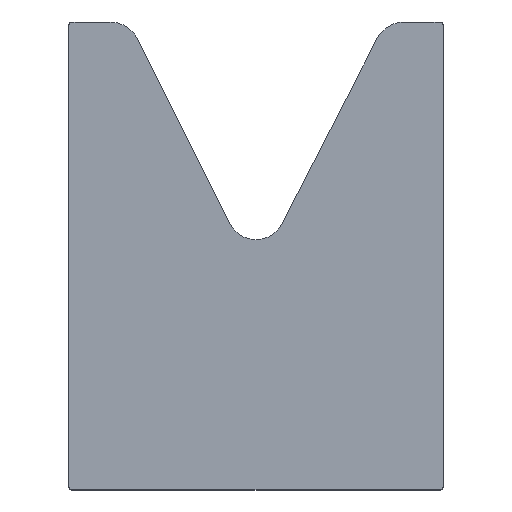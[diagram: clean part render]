
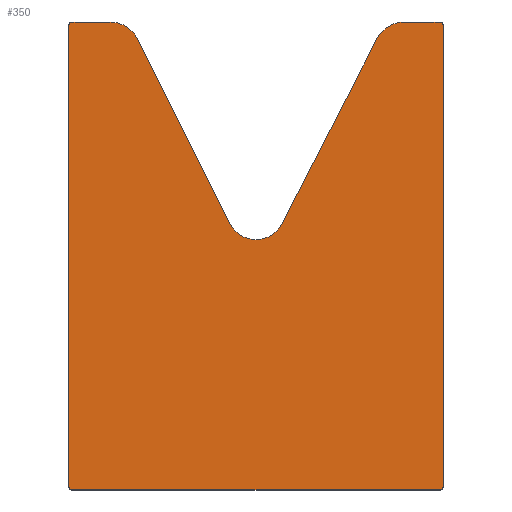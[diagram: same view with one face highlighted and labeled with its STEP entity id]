
A CAD part, top view. The second image highlights one B-rep face of the part: STEP entity #350.
In plain terms, the highlighted planar face has unit normal (0, 0, 1).
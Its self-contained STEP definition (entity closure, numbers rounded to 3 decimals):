
#3 = LINE ( 'NONE', #310, #114 ) ;
#21 = CARTESIAN_POINT ( 'NONE',  ( -37.887, 69.475, 0. ) ) ;
#23 = DIRECTION ( 'NONE',  ( 0., 0., 1. ) ) ;
#25 = CIRCLE ( 'NONE', #513, 1. ) ;
#34 = DIRECTION ( 'NONE',  ( 0., 0., 1. ) ) ;
#36 = DIRECTION ( 'NONE',  ( -1., 0., 0. ) ) ;
#44 = CARTESIAN_POINT ( 'NONE',  ( 59., 74., 0. ) ) ;
#45 = DIRECTION ( 'NONE',  ( -1., 0., 0. ) ) ;
#47 = DIRECTION ( 'NONE',  ( 0., 0., 1. ) ) ;
#57 = VERTEX_POINT ( 'NONE', #376 ) ;
#71 = DIRECTION ( 'NONE',  ( -1., 0., 0. ) ) ;
#72 = AXIS2_PLACEMENT_3D ( 'NONE', #122, #81, #75 ) ;
#75 = DIRECTION ( 'NONE',  ( 1., 0., 0. ) ) ;
#77 = DIRECTION ( 'NONE',  ( -1., 0., 0. ) ) ;
#78 = FACE_OUTER_BOUND ( 'NONE', #511, .T. ) ;
#79 = ORIENTED_EDGE ( 'NONE', *, *, #101, .T. ) ;
#80 = CARTESIAN_POINT ( 'NONE',  ( -59., 75., 0. ) ) ;
#81 = DIRECTION ( 'NONE',  ( 0., 0., 1. ) ) ;
#87 = PLANE ( 'NONE',  #360 ) ;
#89 = DIRECTION ( 'NONE',  ( 1., 0., 0. ) ) ;
#95 = VERTEX_POINT ( 'NONE', #473 ) ;
#97 = CIRCLE ( 'NONE', #232, 9.285 ) ;
#101 = EDGE_CURVE ( 'NONE', #467, #301, #577, .T. ) ;
#106 = VECTOR ( 'NONE', #255, 1000. ) ;
#114 = VECTOR ( 'NONE', #89, 1000. ) ;
#122 = CARTESIAN_POINT ( 'NONE',  ( -46.83, 65., 0. ) ) ;
#123 = ORIENTED_EDGE ( 'NONE', *, *, #529, .T. ) ;
#127 = DIRECTION ( 'NONE',  ( 1., 0., 0. ) ) ;
#138 = ORIENTED_EDGE ( 'NONE', *, *, #488, .T. ) ;
#144 = VERTEX_POINT ( 'NONE', #152 ) ;
#150 = VECTOR ( 'NONE', #536, 1000. ) ;
#152 = CARTESIAN_POINT ( 'NONE',  ( 38.757, 69.573, 0. ) ) ;
#157 = AXIS2_PLACEMENT_3D ( 'NONE', #383, #23, #71 ) ;
#160 = ORIENTED_EDGE ( 'NONE', *, *, #522, .T. ) ;
#162 = ORIENTED_EDGE ( 'NONE', *, *, #228, .T. ) ;
#164 = ORIENTED_EDGE ( 'NONE', *, *, #338, .T. ) ;
#166 = DIRECTION ( 'NONE',  ( 0., 0., -1. ) ) ;
#167 = VECTOR ( 'NONE', #36, 1000. ) ;
#170 = VERTEX_POINT ( 'NONE', #284 ) ;
#171 = CARTESIAN_POINT ( 'NONE',  ( 0., 14.5, 0. ) ) ;
#172 = LINE ( 'NONE', #252, #279 ) ;
#181 = CARTESIAN_POINT ( 'NONE',  ( 8.347, 10.433, 0. ) ) ;
#183 = VERTEX_POINT ( 'NONE', #340 ) ;
#184 = CARTESIAN_POINT ( 'NONE',  ( -60., 74., 0. ) ) ;
#207 = CARTESIAN_POINT ( 'NONE',  ( 59., -74., 0. ) ) ;
#220 = DIRECTION ( 'NONE',  ( 1., 0., 0. ) ) ;
#226 = VERTEX_POINT ( 'NONE', #21 ) ;
#228 = EDGE_CURVE ( 'NONE', #57, #528, #231, .T. ) ;
#231 = CIRCLE ( 'NONE', #319, 1. ) ;
#232 = AXIS2_PLACEMENT_3D ( 'NONE', #171, #166, #127 ) ;
#252 = CARTESIAN_POINT ( 'NONE',  ( -37.887, 69.475, 0. ) ) ;
#255 = DIRECTION ( 'NONE',  ( 0., -1., 0. ) ) ;
#257 = VERTEX_POINT ( 'NONE', #311 ) ;
#263 = DIRECTION ( 'NONE',  ( 0., 0., 1. ) ) ;
#268 = CARTESIAN_POINT ( 'NONE',  ( -46.83, 75., 0. ) ) ;
#271 = LINE ( 'NONE', #459, #419 ) ;
#276 = ORIENTED_EDGE ( 'NONE', *, *, #455, .T. ) ;
#279 = VECTOR ( 'NONE', #404, 1000. ) ;
#284 = CARTESIAN_POINT ( 'NONE',  ( 47.65, 75., 0. ) ) ;
#289 = AXIS2_PLACEMENT_3D ( 'NONE', #454, #47, #220 ) ;
#298 = ORIENTED_EDGE ( 'NONE', *, *, #562, .T. ) ;
#301 = VERTEX_POINT ( 'NONE', #574 ) ;
#310 = CARTESIAN_POINT ( 'NONE',  ( -59., -75., 0. ) ) ;
#311 = CARTESIAN_POINT ( 'NONE',  ( -8.347, 10.433, 0. ) ) ;
#313 = CARTESIAN_POINT ( 'NONE',  ( 59., 75., 0. ) ) ;
#319 = AXIS2_PLACEMENT_3D ( 'NONE', #207, #444, #45 ) ;
#332 = VERTEX_POINT ( 'NONE', #485 ) ;
#334 = EDGE_CURVE ( 'NONE', #226, #555, #468, .T. ) ;
#338 = EDGE_CURVE ( 'NONE', #257, #226, #172, .T. ) ;
#340 = CARTESIAN_POINT ( 'NONE',  ( -60., -74., 0. ) ) ;
#350 = ADVANCED_FACE ( 'NONE', ( #78 ), #87, .T. ) ;
#353 = CARTESIAN_POINT ( 'NONE',  ( 60., 74., 0. ) ) ;
#360 = AXIS2_PLACEMENT_3D ( 'NONE', #401, #34, #396 ) ;
#361 = VECTOR ( 'NONE', #550, 1000. ) ;
#376 = CARTESIAN_POINT ( 'NONE',  ( 59., -75., 0. ) ) ;
#383 = CARTESIAN_POINT ( 'NONE',  ( -59., 74., 0. ) ) ;
#394 = ORIENTED_EDGE ( 'NONE', *, *, #417, .T. ) ;
#395 = CARTESIAN_POINT ( 'NONE',  ( -59., -74., 0. ) ) ;
#396 = DIRECTION ( 'NONE',  ( 1., 0., 0. ) ) ;
#398 = ORIENTED_EDGE ( 'NONE', *, *, #334, .T. ) ;
#401 = CARTESIAN_POINT ( 'NONE',  ( 0., 14.5, 0. ) ) ;
#403 = CARTESIAN_POINT ( 'NONE',  ( 60., -74., 0. ) ) ;
#404 = DIRECTION ( 'NONE',  ( -0.447, 0.894, 0. ) ) ;
#405 = VERTEX_POINT ( 'NONE', #407 ) ;
#407 = CARTESIAN_POINT ( 'NONE',  ( 60., 74., 0. ) ) ;
#409 = ORIENTED_EDGE ( 'NONE', *, *, #538, .T. ) ;
#415 = LINE ( 'NONE', #181, #361 ) ;
#417 = EDGE_CURVE ( 'NONE', #555, #467, #451, .T. ) ;
#419 = VECTOR ( 'NONE', #501, 1000. ) ;
#443 = DIRECTION ( 'NONE',  ( -1., 0., 0. ) ) ;
#444 = DIRECTION ( 'NONE',  ( 0., 0., 1. ) ) ;
#445 = ORIENTED_EDGE ( 'NONE', *, *, #472, .T. ) ;
#446 = DIRECTION ( 'NONE',  ( 0., 0., 1. ) ) ;
#450 = VERTEX_POINT ( 'NONE', #313 ) ;
#451 = LINE ( 'NONE', #80, #167 ) ;
#454 = CARTESIAN_POINT ( 'NONE',  ( 47.65, 65., 0. ) ) ;
#455 = EDGE_CURVE ( 'NONE', #183, #95, #25, .T. ) ;
#459 = CARTESIAN_POINT ( 'NONE',  ( 59., 75., 0. ) ) ;
#467 = VERTEX_POINT ( 'NONE', #533 ) ;
#468 = CIRCLE ( 'NONE', #72, 10. ) ;
#472 = EDGE_CURVE ( 'NONE', #450, #170, #271, .T. ) ;
#473 = CARTESIAN_POINT ( 'NONE',  ( -59., -75., 0. ) ) ;
#480 = EDGE_CURVE ( 'NONE', #301, #183, #490, .T. ) ;
#485 = CARTESIAN_POINT ( 'NONE',  ( 8.347, 10.433, 0. ) ) ;
#488 = EDGE_CURVE ( 'NONE', #405, #450, #578, .T. ) ;
#490 = LINE ( 'NONE', #184, #106 ) ;
#495 = AXIS2_PLACEMENT_3D ( 'NONE', #44, #446, #77 ) ;
#496 = ORIENTED_EDGE ( 'NONE', *, *, #480, .T. ) ;
#501 = DIRECTION ( 'NONE',  ( -1., 0., 0. ) ) ;
#511 = EDGE_LOOP ( 'NONE', ( #520, #164, #398, #394, #79, #496, #276, #123, #162, #160, #138, #445, #409, #298 ) ) ;
#513 = AXIS2_PLACEMENT_3D ( 'NONE', #395, #263, #443 ) ;
#514 = EDGE_CURVE ( 'NONE', #332, #257, #97, .T. ) ;
#520 = ORIENTED_EDGE ( 'NONE', *, *, #514, .T. ) ;
#522 = EDGE_CURVE ( 'NONE', #528, #405, #581, .T. ) ;
#528 = VERTEX_POINT ( 'NONE', #403 ) ;
#529 = EDGE_CURVE ( 'NONE', #95, #57, #3, .T. ) ;
#533 = CARTESIAN_POINT ( 'NONE',  ( -59., 75., 0. ) ) ;
#536 = DIRECTION ( 'NONE',  ( 0., 1., 0. ) ) ;
#538 = EDGE_CURVE ( 'NONE', #170, #144, #568, .T. ) ;
#550 = DIRECTION ( 'NONE',  ( -0.457, -0.889, 0. ) ) ;
#555 = VERTEX_POINT ( 'NONE', #268 ) ;
#562 = EDGE_CURVE ( 'NONE', #144, #332, #415, .T. ) ;
#568 = CIRCLE ( 'NONE', #289, 10. ) ;
#574 = CARTESIAN_POINT ( 'NONE',  ( -60., 74., 0. ) ) ;
#577 = CIRCLE ( 'NONE', #157, 1. ) ;
#578 = CIRCLE ( 'NONE', #495, 1. ) ;
#581 = LINE ( 'NONE', #353, #150 ) ;
